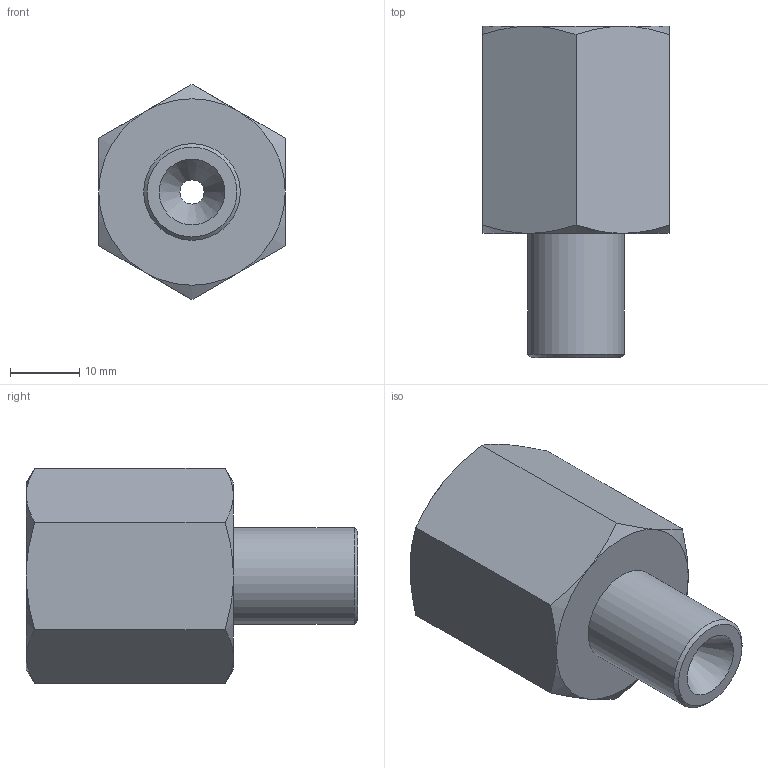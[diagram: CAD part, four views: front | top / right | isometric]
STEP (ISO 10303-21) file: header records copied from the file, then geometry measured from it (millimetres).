
FILE_DESCRIPTION(/* description */ (''),/* implementation_level */ '2;1');
FILE_NAME(/* name */ '351-SS-DIN16284-015-14mm.stp',/* time_stamp */ '2024-07-01T20:01:35+02:00',/* author */ ('roger.thijssen'),/* organization */ (''),/* preprocessor_version */ 'ST-DEVELOPER v20',/* originating_system */ 'Autodesk Inventor 2024',/* authorisation */ '');
FILE_SCHEMA (('AUTOMOTIVE_DESIGN { 1 0 10303 214 3 1 1 }'));
Length unit declared in the file: millimetre
Products named in the file (1): 351-SS-DIN16284-015-14mm
Bounding box: 27 x 48 x 31.18 mm (x, y, z)
Volume: 16116.3 mm3; surface area: 6183.4 mm2
Topology: 1 solids, 1 shells, 30 faces, 62 edges, 37 vertices
Faces by surface type: cone 15, plane 11, cylinder 4
Full cylindrical faces by diameter (mm): 3.5 x1, 7 x1, 14 x1, 18.631 x1
Entity records: 849 total; most frequent: CARTESIAN_POINT 178, DIRECTION 125, ORIENTED_EDGE 124, EDGE_CURVE 62, AXIS2_PLACEMENT_3D 56, VERTEX_POINT 37, EDGE_LOOP 35, STYLED_ITEM 31
